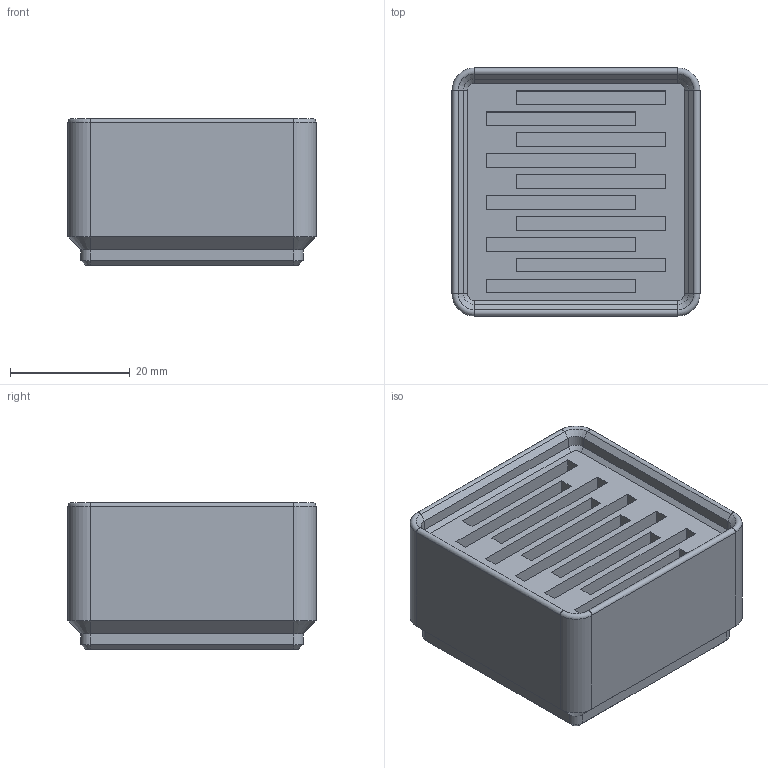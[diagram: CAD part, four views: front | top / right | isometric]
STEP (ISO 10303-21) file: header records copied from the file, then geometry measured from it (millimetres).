
FILE_DESCRIPTION(/* description */ (''),/* implementation_level */ '2;1');
FILE_NAME(/* name */ '/Users/kpe/Desktop/Gridfinity-SDHolder.step',/* time_stamp */ '2022-10-18T22:18:50-04:00',/* author */ (''),/* organization */ (''),/* preprocessor_version */ 'ST-DEVELOPER v19',/* originating_system */ 'Autodesk Translation Framework v11.7.0.108',/* authorisation */ '');
FILE_SCHEMA (('AUTOMOTIVE_DESIGN { 1 0 10303 214 3 1 1 }'));
Length unit declared in the file: millimetre
Products named in the file (2): Gridfinity-SDHolder; Blank Storage
Assembly tree (1 placements, depth 2):
  Gridfinity-SDHolder
    Blank Storage
Bounding box: 41.5 x 41.5 x 24.55 mm (x, y, z)
Volume: 27548.5 mm3; surface area: 14921.1 mm2
Topology: 1 solids, 1 shells, 124 faces, 268 edges, 160 vertices
Faces by surface type: plane 84, cylinder 20, cone 16, torus 4
Full cylindrical faces by diameter (mm): 6.5 x4
Entity records: 3329 total; most frequent: DIRECTION 574, CARTESIAN_POINT 555, ORIENTED_EDGE 536, EDGE_CURVE 268, LINE 216, VECTOR 216, AXIS2_PLACEMENT_3D 179, VERTEX_POINT 160
